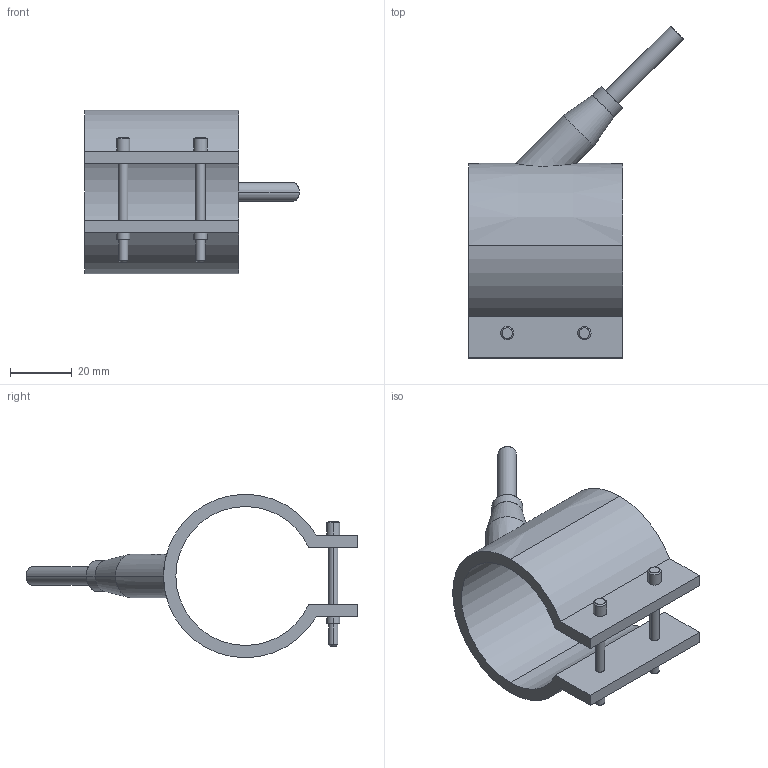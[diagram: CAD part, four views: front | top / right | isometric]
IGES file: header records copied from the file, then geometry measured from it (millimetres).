
Start section: START RECORD GO HERE.
Global section: file name: 29045050.igs; native system: DASSAULT SYSTEMES CATIA V5 R20 - www.3ds.com; preprocessor: CATIA Version 5 Release 20 ; author: Utente; organization: NB04-ASUS; date: 20210327.103324; units: millimetre
Bounding box: 69.55 x 107.55 x 53 mm (x, y, z)
Surface area: 19979.9 mm2 (no closed solid volume)
Topology: 0 solids, 0 shells, 54 faces, 244 edges, 244 vertices
Faces by surface type: revolution 38, plane 16
